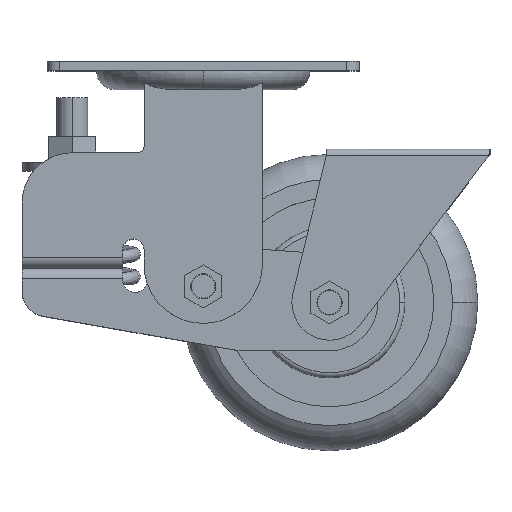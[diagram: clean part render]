
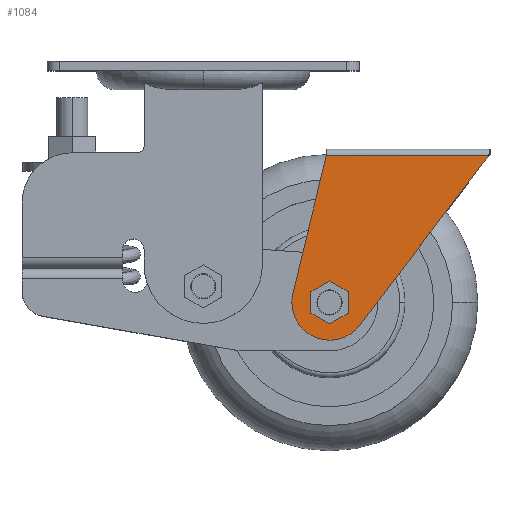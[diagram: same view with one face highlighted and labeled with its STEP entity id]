
A CAD part, top view. The second image highlights one B-rep face of the part: STEP entity #1084.
In plain terms, the highlighted planar face has unit normal (0, 0, 1).
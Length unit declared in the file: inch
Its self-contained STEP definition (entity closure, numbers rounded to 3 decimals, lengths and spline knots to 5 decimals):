
#2 = VECTOR ( 'NONE', #4543, 39.37008 ) ;
#8 = DIRECTION ( 'NONE',  ( 0., -1., 0. ) ) ;
#127 = VERTEX_POINT ( 'NONE', #8501 ) ;
#187 = DIRECTION ( 'NONE',  ( 0., 0., 1. ) ) ;
#310 = ORIENTED_EDGE ( 'NONE', *, *, #9614, .F. ) ;
#545 = CIRCLE ( 'NONE', #2104, 0.75 ) ;
#751 = VERTEX_POINT ( 'NONE', #8903 ) ;
#992 = CARTESIAN_POINT ( 'NONE',  ( 0., 2.95, 1.5 ) ) ;
#1051 = AXIS2_PLACEMENT_3D ( 'NONE', #5780, #187, #5905 ) ;
#1084 = ADVANCED_FACE ( 'NONE', ( #6835, #2232 ), #11206, .T. ) ;
#1351 = CARTESIAN_POINT ( 'NONE',  ( -0.72898, 3.12634, 1.5 ) ) ;
#1692 = CARTESIAN_POINT ( 'NONE',  ( 0.59645, 2.49531, 1.5 ) ) ;
#1754 = LINE ( 'NONE', #1692, #2 ) ;
#1800 = AXIS2_PLACEMENT_3D ( 'NONE', #992, #4815, #8 ) ;
#2104 = AXIS2_PLACEMENT_3D ( 'NONE', #6294, #10183, #9133 ) ;
#2224 = VECTOR ( 'NONE', #9779, 39.37008 ) ;
#2232 = FACE_OUTER_BOUND ( 'NONE', #8720, .T. ) ;
#2493 = EDGE_CURVE ( 'NONE', #9790, #5383, #1754, .T. ) ;
#2688 = DIRECTION ( 'NONE',  ( 0., 0., 1. ) ) ;
#3138 = ORIENTED_EDGE ( 'NONE', *, *, #5589, .T. ) ;
#3289 = LINE ( 'NONE', #7938, #2224 ) ;
#3667 = ORIENTED_EDGE ( 'NONE', *, *, #6280, .T. ) ;
#4140 = AXIS2_PLACEMENT_3D ( 'NONE', #4569, #2688, #9972 ) ;
#4327 = CARTESIAN_POINT ( 'NONE',  ( 0.59645, 2.49531, 1.5 ) ) ;
#4526 = VERTEX_POINT ( 'NONE', #8402 ) ;
#4543 = DIRECTION ( 'NONE',  ( 0.606, 0.795, 0. ) ) ;
#4569 = CARTESIAN_POINT ( 'NONE',  ( 0., 2.95, 1.5 ) ) ;
#4815 = DIRECTION ( 'NONE',  ( 0., 0., 1. ) ) ;
#4988 = DIRECTION ( 'NONE',  ( -1., 0., 0. ) ) ;
#5337 = CARTESIAN_POINT ( 'NONE',  ( 0., 5.871, 1.5 ) ) ;
#5383 = VERTEX_POINT ( 'NONE', #10501 ) ;
#5404 = VECTOR ( 'NONE', #4988, 39.37008 ) ;
#5589 = EDGE_CURVE ( 'NONE', #7910, #9790, #545, .T. ) ;
#5780 = CARTESIAN_POINT ( 'NONE',  ( 0., 2.95, 1.5 ) ) ;
#5905 = DIRECTION ( 'NONE',  ( 0., -1., 0. ) ) ;
#6280 = EDGE_CURVE ( 'NONE', #5383, #751, #6990, .T. ) ;
#6294 = CARTESIAN_POINT ( 'NONE',  ( 0., 2.95, 1.5 ) ) ;
#6835 = FACE_BOUND ( 'NONE', #10315, .T. ) ;
#6990 = LINE ( 'NONE', #5337, #5404 ) ;
#7048 = CIRCLE ( 'NONE', #4140, 0.25 ) ;
#7910 = VERTEX_POINT ( 'NONE', #1351 ) ;
#7938 = CARTESIAN_POINT ( 'NONE',  ( -0.72898, 3.12634, 1.5 ) ) ;
#8201 = ORIENTED_EDGE ( 'NONE', *, *, #8643, .F. ) ;
#8277 = ORIENTED_EDGE ( 'NONE', *, *, #2493, .T. ) ;
#8402 = CARTESIAN_POINT ( 'NONE',  ( 0., 2.7, 1.5 ) ) ;
#8501 = CARTESIAN_POINT ( 'NONE',  ( 0., 3.2, 1.5 ) ) ;
#8643 = EDGE_CURVE ( 'NONE', #4526, #127, #7048, .T. ) ;
#8720 = EDGE_LOOP ( 'NONE', ( #8277, #3667, #11748, #3138 ) ) ;
#8903 = CARTESIAN_POINT ( 'NONE',  ( -0.06505, 5.871, 1.5 ) ) ;
#9133 = DIRECTION ( 'NONE',  ( 0., -1., 0. ) ) ;
#9614 = EDGE_CURVE ( 'NONE', #127, #4526, #11341, .T. ) ;
#9779 = DIRECTION ( 'NONE',  ( -0.235, -0.972, 0. ) ) ;
#9790 = VERTEX_POINT ( 'NONE', #4327 ) ;
#9972 = DIRECTION ( 'NONE',  ( 0., -1., 0. ) ) ;
#10183 = DIRECTION ( 'NONE',  ( 0., 0., 1. ) ) ;
#10268 = EDGE_CURVE ( 'NONE', #751, #7910, #3289, .T. ) ;
#10315 = EDGE_LOOP ( 'NONE', ( #310, #8201 ) ) ;
#10501 = CARTESIAN_POINT ( 'NONE',  ( 3.16986, 5.871, 1.5 ) ) ;
#11206 = PLANE ( 'NONE',  #1800 ) ;
#11341 = CIRCLE ( 'NONE', #1051, 0.25 ) ;
#11748 = ORIENTED_EDGE ( 'NONE', *, *, #10268, .T. ) ;
